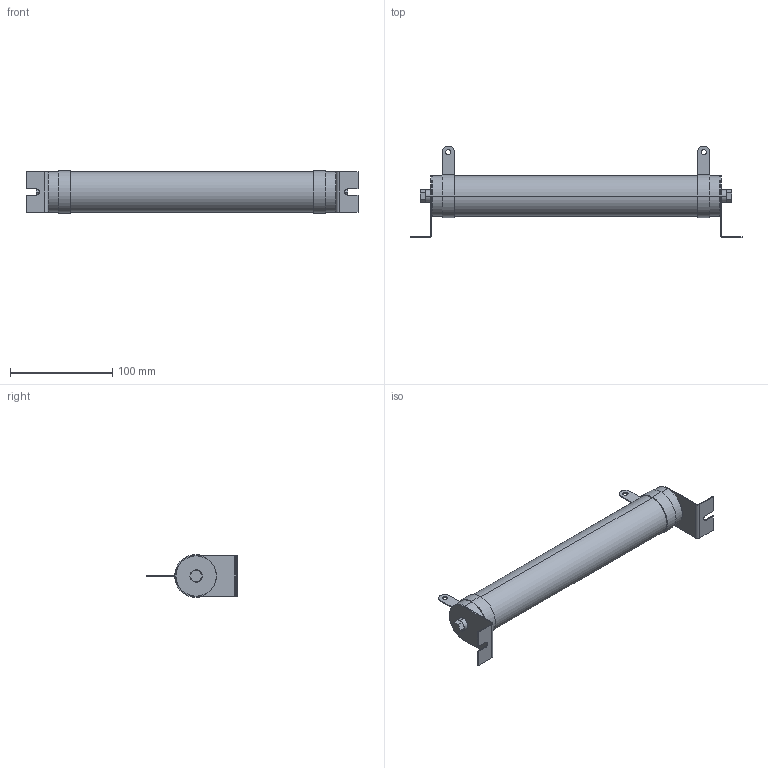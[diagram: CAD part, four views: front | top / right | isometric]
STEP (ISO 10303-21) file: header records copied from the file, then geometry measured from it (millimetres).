
FILE_DESCRIPTION (( 'STEP AP203' ), '1' );
FILE_NAME ('IRT-250-400.STEP', '2022-11-16T11:58:35', ( '' ), ( '' ), 'SwSTEP 2.0', 'SolidWorks 2018', '' );
FILE_SCHEMA (( 'CONFIG_CONTROL_DESIGN' ));
Length unit declared in the file: millimetre
Products named in the file (1): IRT-250-400
Bounding box: 325 x 90 x 42 mm (x, y, z)
Volume: 366124.7 mm3; surface area: 48219.1 mm2
Topology: 1 solids, 1 shells, 94 faces, 222 edges, 140 vertices
Faces by surface type: plane 56, cylinder 38
Entity records: 2787 total; most frequent: DIRECTION 500, CARTESIAN_POINT 457, ORIENTED_EDGE 444, EDGE_CURVE 222, AXIS2_PLACEMENT_3D 183, VERTEX_POINT 140, VECTOR 134, LINE 134
